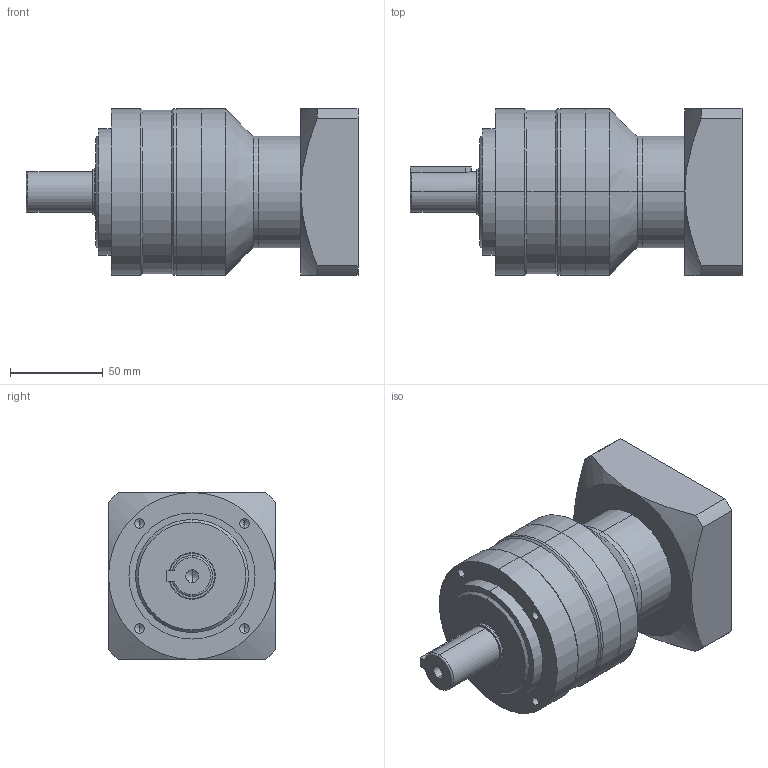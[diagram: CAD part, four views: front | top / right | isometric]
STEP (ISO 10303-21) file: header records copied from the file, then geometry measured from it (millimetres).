
FILE_DESCRIPTION (( 'STEP AP203' ), '1' );
FILE_NAME ('TL-090-L2-19-70-90-M6-TÐÍ.STEP', '2025-06-05T07:46:21', ( 'Microsoft' ), ( 'Microsoft' ), 'SwSTEP 2.0', 'SolidWorks 2016', '' );
FILE_SCHEMA (( 'CONFIG_CONTROL_DESIGN' ));
Length unit declared in the file: millimetre
Products named in the file (1): TL-090-L2-19-70-90-M6-T倰
Bounding box: 179 x 90 x 90 mm (x, y, z)
Volume: 743480.4 mm3; surface area: 104632.3 mm2
Topology: 5 solids, 5 shells, 115 faces, 249 edges, 143 vertices
Faces by surface type: cylinder 51, cone 32, plane 25, bspline 7
Entity records: 3432 total; most frequent: CARTESIAN_POINT 923, DIRECTION 549, ORIENTED_EDGE 462, EDGE_CURVE 231, AXIS2_PLACEMENT_3D 227, VERTEX_POINT 143, EDGE_LOOP 132, CIRCLE 118
